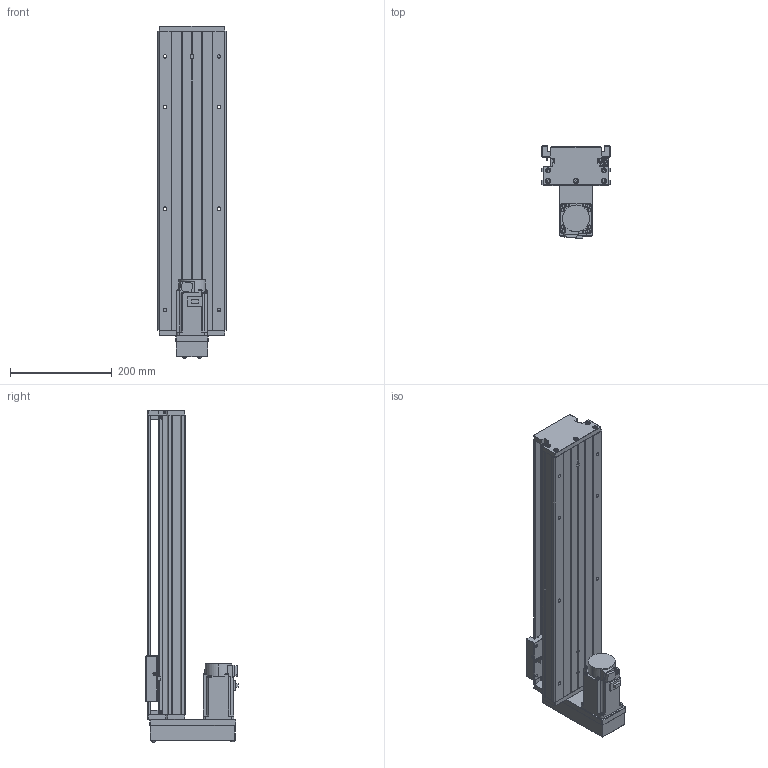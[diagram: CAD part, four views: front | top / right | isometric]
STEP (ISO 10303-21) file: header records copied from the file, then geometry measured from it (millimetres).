
FILE_DESCRIPTION (( 'STEP AP203' ), '1' );
FILE_NAME ('KTH130-450-BM-M40-C4.step', '2023-06-30T04:04:35', ( '微软用户' ), ( '微软中国' ), 'SwSTEP 2.0', 'SolidWorks 2020', '' );
FILE_SCHEMA (( 'CONFIG_CONTROL_DESIGN' ));
Length unit declared in the file: millimetre
Products named in the file (19): GBT 70.2-M4¡Á35_M4¡Á35; KTH130-004; CTHA60-016; GTH14-015-2_CTHA86-015-2; KTH130-005; GBT 70.1-M3℅5; GTH14-033; GB1155-6X6; GBT77-2000 M3×3; KTH130-450-BM-M40-C4; GBT70.1 M5℅16; す晦芛蹟隊 M3℅5; GBT 70.2-M3¡Á5_M3¡Á6; GBT 70.3-M3℅8; GTH14-001_450; CTHA60-017; HG-KN43J-S100; KTH130-002_KTH130-002; EE_SX911P_R
Assembly tree (53 placements, depth 2):
  KTH130-450-BM-M40-C4
    GTH14-001_450
    KTH130-002_KTH130-002
    KTH130-004
    KTH130-005
    GB1155-6X6  x2
    GBT70.1 M5℅16  x10
    GBT 70.2-M3¡Á5_M3¡Á6  x4
    CTHA60-017  x3
    EE_SX911P_R  x3
    CTHA60-016  x2
    GBT 70.1-M3℅5  x6
    GBT77-2000 M3×3  x6
    す晦芛蹟隊 M3℅5  x2
    GBT 70.3-M3℅8  x4
    HG-KN43J-S100
    GBT 70.2-M4¡Á35_M4¡Á35  x4
    GTH14-015-2_CTHA86-015-2
    GTH14-033
Bounding box: 135 x 181.8 x 654.2 mm (x, y, z)
Volume: 3874745.1 mm3; surface area: 657912.8 mm2
Topology: 56 solids, 56 shells, 2213 faces, 5342 edges, 3326 vertices
Faces by surface type: plane 1195, cylinder 604, cone 290, torus 100, sphere 24
Entity records: 40250 total; most frequent: CARTESIAN_POINT 8584, DIRECTION 5979, ORIENTED_EDGE 5884, EDGE_CURVE 2942, AXIS2_PLACEMENT_3D 2052, VERTEX_POINT 1879, LINE 1875, VECTOR 1875
